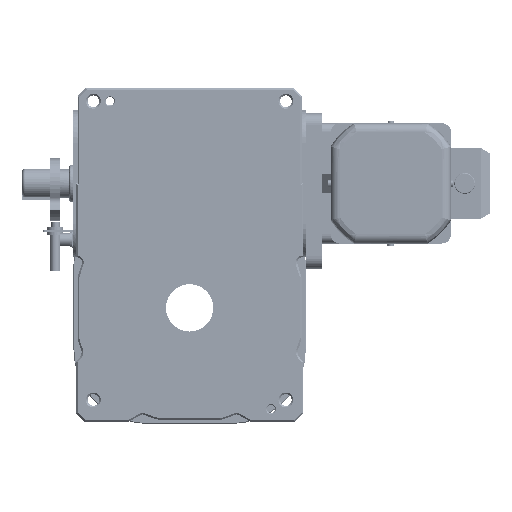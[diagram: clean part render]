
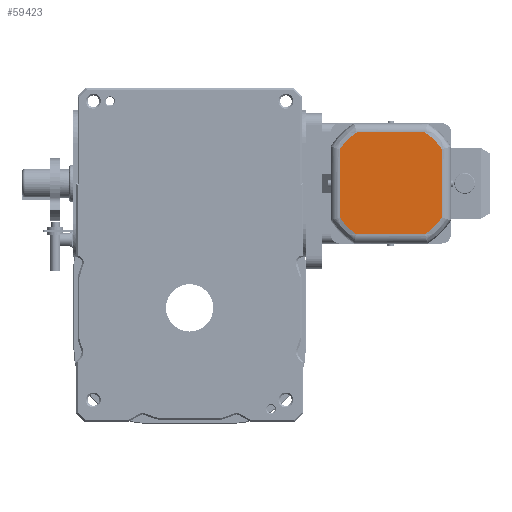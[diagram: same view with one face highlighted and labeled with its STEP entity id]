
A CAD part, front view. The second image highlights one B-rep face of the part: STEP entity #59423.
In plain terms, the highlighted planar face has unit normal (0, -1, 0).
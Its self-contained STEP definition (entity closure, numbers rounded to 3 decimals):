
#251 = CARTESIAN_POINT ( 'NONE',  ( 304., -326., 150. ) ) ;
#2596 = VECTOR ( 'NONE', #158886, 1000. ) ;
#5738 = DIRECTION ( 'NONE',  ( 0., 0., 1. ) ) ;
#7605 = LINE ( 'NONE', #8613, #91701 ) ;
#8500 = VERTEX_POINT ( 'NONE', #128562 ) ;
#8613 = CARTESIAN_POINT ( 'NONE',  ( 181., -326., 150. ) ) ;
#11243 = ORIENTED_EDGE ( 'NONE', *, *, #209787, .F. ) ;
#12578 = ORIENTED_EDGE ( 'NONE', *, *, #87836, .F. ) ;
#13061 = CARTESIAN_POINT ( 'NONE',  ( 201.349, -326., 88.497 ) ) ;
#15576 = DIRECTION ( 'NONE',  ( 0., 0., -1. ) ) ;
#17862 = CARTESIAN_POINT ( 'NONE',  ( 201.345, -326., 211.5 ) ) ;
#18782 = CARTESIAN_POINT ( 'NONE',  ( 283.55, -326., 88.43 ) ) ;
#21177 = CARTESIAN_POINT ( 'NONE',  ( 298.574, -326., 100.736 ) ) ;
#22682 = LINE ( 'NONE', #251, #67376 ) ;
#24488 = CARTESIAN_POINT ( 'NONE',  ( 242.45, -326., 88.464 ) ) ;
#28946 = VERTEX_POINT ( 'NONE', #17862 ) ;
#38039 = CARTESIAN_POINT ( 'NONE',  ( 291.668, -326., 93.843 ) ) ;
#42534 = ORIENTED_EDGE ( 'NONE', *, *, #137730, .F. ) ;
#48317 = EDGE_LOOP ( 'NONE', ( #42534, #12578, #11243, #152231, #136920, #131267, #156079, #70364 ) ) ;
#53512 = CARTESIAN_POINT ( 'NONE',  ( 181., -326., 108.845 ) ) ;
#56338 = CARTESIAN_POINT ( 'NONE',  ( 291.728, -326., 206.097 ) ) ;
#58451 = CARTESIAN_POINT ( 'NONE',  ( 181., -326., 191.155 ) ) ;
#59423 = ADVANCED_FACE ( 'NONE', ( #91955 ), #149288, .T. ) ;
#60708 = EDGE_CURVE ( 'NONE', #129160, #102653, #141351, .T. ) ;
#62297 =( BOUNDED_CURVE ( )  B_SPLINE_CURVE ( 3, ( #58451, #159087, #92306, #209820 ),
 .UNSPECIFIED., .F., .T. ) 
 B_SPLINE_CURVE_WITH_KNOTS ( ( 4, 4 ),
 ( 0., 1. ),
 .UNSPECIFIED. ) 
 CURVE ( )  GEOMETRIC_REPRESENTATION_ITEM ( )  RATIONAL_B_SPLINE_CURVE ( ( 1., 0.987, 0.987, 1. ) ) 
 REPRESENTATION_ITEM ( '' )  );
#67376 = VECTOR ( 'NONE', #167640, 1000. ) ;
#70364 = ORIENTED_EDGE ( 'NONE', *, *, #183992, .F. ) ;
#80428 = VERTEX_POINT ( 'NONE', #53512 ) ;
#82357 = VERTEX_POINT ( 'NONE', #18782 ) ;
#82695 = CARTESIAN_POINT ( 'NONE',  ( 201.349, -326., 88.497 ) ) ;
#83370 = CARTESIAN_POINT ( 'NONE',  ( 283.655, -326., 211.5 ) ) ;
#84592 = EDGE_CURVE ( 'NONE', #80428, #198181, #7605, .T. ) ;
#86958 = DIRECTION ( 'NONE',  ( 1., 0., 0. ) ) ;
#87836 = EDGE_CURVE ( 'NONE', #8500, #82357, #92130, .T. ) ;
#90221 = CARTESIAN_POINT ( 'NONE',  ( 298.597, -326., 199.228 ) ) ;
#91701 = VECTOR ( 'NONE', #5738, 1000. ) ;
#91955 = FACE_OUTER_BOUND ( 'NONE', #48317, .T. ) ;
#92130 =( BOUNDED_CURVE ( )  B_SPLINE_CURVE ( 3, ( #205536, #21177, #38039, #155564 ),
 .UNSPECIFIED., .F., .F. ) 
 B_SPLINE_CURVE_WITH_KNOTS ( ( 4, 4 ),
 ( 0., 1. ),
 .UNSPECIFIED. ) 
 CURVE ( )  GEOMETRIC_REPRESENTATION_ITEM ( )  RATIONAL_B_SPLINE_CURVE ( ( 1., 0.987, 0.987, 1. ) ) 
 REPRESENTATION_ITEM ( '' )  );
#92306 = CARTESIAN_POINT ( 'NONE',  ( 193.272, -326., 206.097 ) ) ;
#102653 = VERTEX_POINT ( 'NONE', #156370 ) ;
#114917 = VERTEX_POINT ( 'NONE', #13061 ) ;
#116168 = DIRECTION ( 'NONE',  ( 0., -1., 0. ) ) ;
#116400 = CARTESIAN_POINT ( 'NONE',  ( 181., -326., 108.845 ) ) ;
#128562 = CARTESIAN_POINT ( 'NONE',  ( 304., -326., 108.845 ) ) ;
#129160 = VERTEX_POINT ( 'NONE', #83370 ) ;
#131267 = ORIENTED_EDGE ( 'NONE', *, *, #145624, .F. ) ;
#136920 = ORIENTED_EDGE ( 'NONE', *, *, #216415, .F. ) ;
#137730 = EDGE_CURVE ( 'NONE', #82357, #114917, #170739, .T. ) ;
#141351 =( BOUNDED_CURVE ( )  B_SPLINE_CURVE ( 3, ( #173913, #56338, #90221, #207735 ),
 .UNSPECIFIED., .F., .F. ) 
 B_SPLINE_CURVE_WITH_KNOTS ( ( 4, 4 ),
 ( 0., 1. ),
 .UNSPECIFIED. ) 
 CURVE ( )  GEOMETRIC_REPRESENTATION_ITEM ( )  RATIONAL_B_SPLINE_CURVE ( ( 1., 0.987, 0.987, 1. ) ) 
 REPRESENTATION_ITEM ( '' )  );
#145624 = EDGE_CURVE ( 'NONE', #198181, #28946, #62297, .T. ) ;
#149288 = PLANE ( 'NONE',  #155266 ) ;
#152231 = ORIENTED_EDGE ( 'NONE', *, *, #60708, .F. ) ;
#155266 = AXIS2_PLACEMENT_3D ( 'NONE', #216903, #116168, #15576 ) ;
#155564 = CARTESIAN_POINT ( 'NONE',  ( 283.55, -326., 88.43 ) ) ;
#156079 = ORIENTED_EDGE ( 'NONE', *, *, #84592, .F. ) ;
#156370 = CARTESIAN_POINT ( 'NONE',  ( 304., -326., 191.155 ) ) ;
#158886 = DIRECTION ( 'NONE',  ( -1., 0., 0.001 ) ) ;
#159087 = CARTESIAN_POINT ( 'NONE',  ( 186.403, -326., 199.228 ) ) ;
#167640 = DIRECTION ( 'NONE',  ( 0., 0., -1. ) ) ;
#170739 = LINE ( 'NONE', #24488, #2596 ) ;
#173913 = CARTESIAN_POINT ( 'NONE',  ( 283.655, -326., 211.5 ) ) ;
#175004 = CARTESIAN_POINT ( 'NONE',  ( 181., -326., 191.155 ) ) ;
#178243 =( BOUNDED_CURVE ( )  B_SPLINE_CURVE ( 3, ( #82695, #183300, #217115, #116400 ),
 .UNSPECIFIED., .F., .F. ) 
 B_SPLINE_CURVE_WITH_KNOTS ( ( 4, 4 ),
 ( 0., 1. ),
 .UNSPECIFIED. ) 
 CURVE ( )  GEOMETRIC_REPRESENTATION_ITEM ( )  RATIONAL_B_SPLINE_CURVE ( ( 1., 0.987, 0.987, 1. ) ) 
 REPRESENTATION_ITEM ( '' )  );
#183300 = CARTESIAN_POINT ( 'NONE',  ( 193.274, -326., 93.9 ) ) ;
#183992 = EDGE_CURVE ( 'NONE', #114917, #80428, #178243, .T. ) ;
#185424 = CARTESIAN_POINT ( 'NONE',  ( 242.5, -326., 211.5 ) ) ;
#189672 = VECTOR ( 'NONE', #86958, 1000. ) ;
#194977 = LINE ( 'NONE', #185424, #189672 ) ;
#198181 = VERTEX_POINT ( 'NONE', #175004 ) ;
#205536 = CARTESIAN_POINT ( 'NONE',  ( 304., -326., 108.845 ) ) ;
#207735 = CARTESIAN_POINT ( 'NONE',  ( 304., -326., 191.155 ) ) ;
#209787 = EDGE_CURVE ( 'NONE', #102653, #8500, #22682, .T. ) ;
#209820 = CARTESIAN_POINT ( 'NONE',  ( 201.345, -326., 211.5 ) ) ;
#216415 = EDGE_CURVE ( 'NONE', #28946, #129160, #194977, .T. ) ;
#216903 = CARTESIAN_POINT ( 'NONE',  ( 242.5, -326., 150. ) ) ;
#217115 = CARTESIAN_POINT ( 'NONE',  ( 186.403, -326., 100.77 ) ) ;
